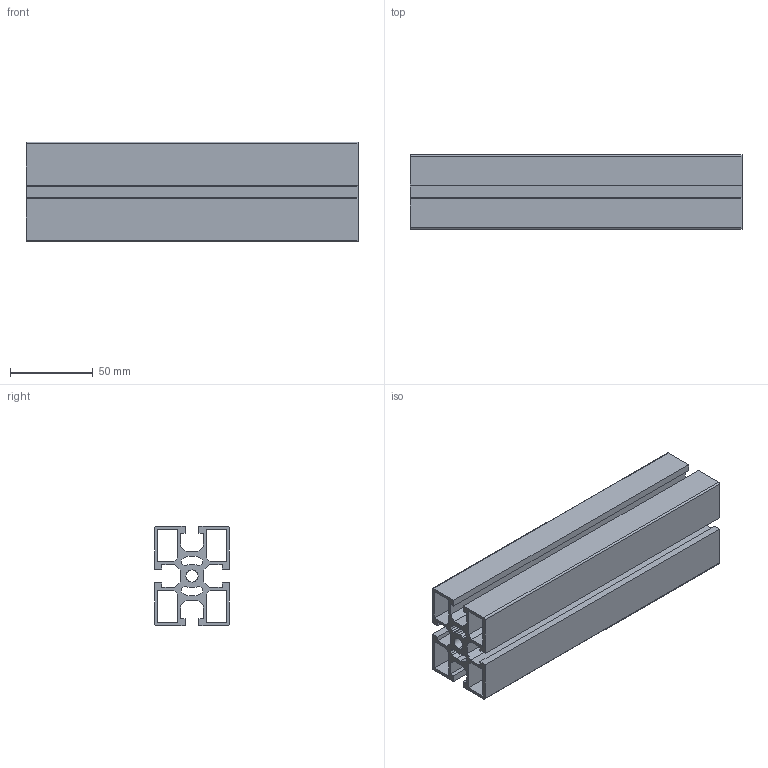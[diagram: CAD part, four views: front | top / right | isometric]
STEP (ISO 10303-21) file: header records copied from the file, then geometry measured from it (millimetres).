
FILE_DESCRIPTION (( 'STEP AP203' ), '1' );
FILE_NAME ('1.01.02.0019-profilo-alluminio-3D-45x60-Milper.STEP', '2020-06-03T12:36:27', ( '' ), ( '' ), 'SwSTEP 2.0', 'SolidWorks 2019', '' );
FILE_SCHEMA (( 'CONFIG_CONTROL_DESIGN' ));
Length unit declared in the file: millimetre
Products named in the file (1): 1.01.02.0019-profilo-alluminio-3D-45x60-Milper
Bounding box: 200 x 45 x 60 mm (x, y, z)
Volume: 179457.9 mm3; surface area: 140658.6 mm2
Topology: 1 solids, 1 shells, 108 faces, 318 edges, 212 vertices
Faces by surface type: plane 102, cylinder 6
Entity records: 3639 total; most frequent: CARTESIAN_POINT 639, ORIENTED_EDGE 636, DIRECTION 548, EDGE_CURVE 318, VECTOR 306, LINE 306, VERTEX_POINT 212, EDGE_LOOP 122
